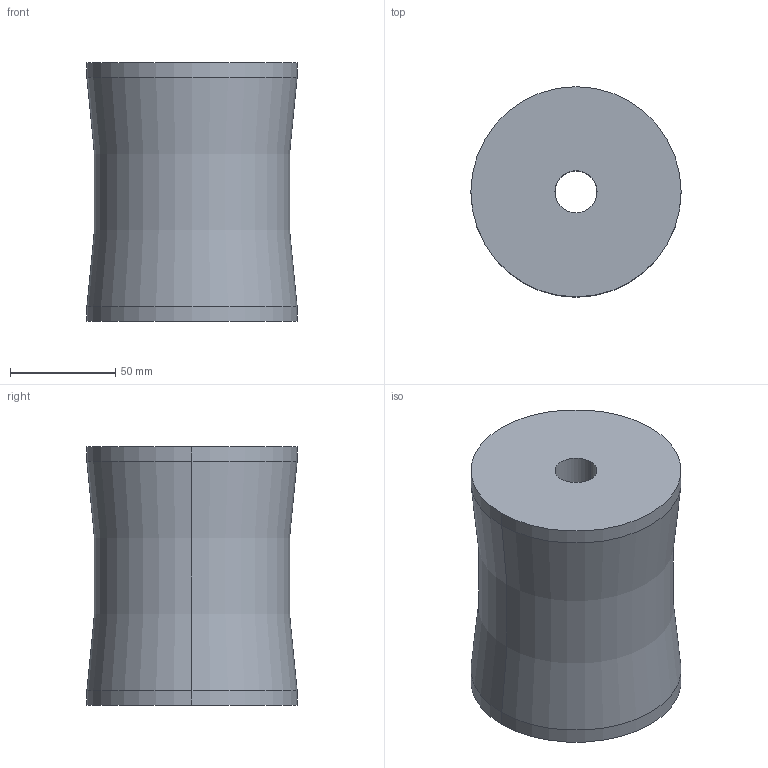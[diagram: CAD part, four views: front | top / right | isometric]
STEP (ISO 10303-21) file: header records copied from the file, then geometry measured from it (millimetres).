
FILE_DESCRIPTION(/* description */ (''),/* implementation_level */ '2;1');
FILE_NAME(/* name */ '3d_ex102012_06507_r00.stp',/* time_stamp */ '2011-01-10T14:15:38+09:00',/* author */ ('MISUMI'),/* organization */ (''),/* preprocessor_version */ 'ST-DEVELOPER v11',/* originating_system */ 'UGS - NX 5.0',/* authorisation */ '');
FILE_SCHEMA (('CONFIG_CONTROL_DESIGN'));
Length unit declared in the file: millimetre
Products named in the file (1): 3d_ex102012_06507_r00
Bounding box: 100 x 100 x 123 mm (x, y, z)
Volume: 838845.5 mm3; surface area: 59739 mm2
Topology: 1 solids, 1 shells, 10 faces, 20 edges, 12 vertices
Faces by surface type: cylinder 6, plane 2, torus 2
Entity records: 356 total; most frequent: DIRECTION 56, CARTESIAN_POINT 43, ORIENTED_EDGE 40, AXIS2_PLACEMENT_3D 25, EDGE_CURVE 20, CIRCLE 14, EDGE_LOOP 12, VERTEX_POINT 12
